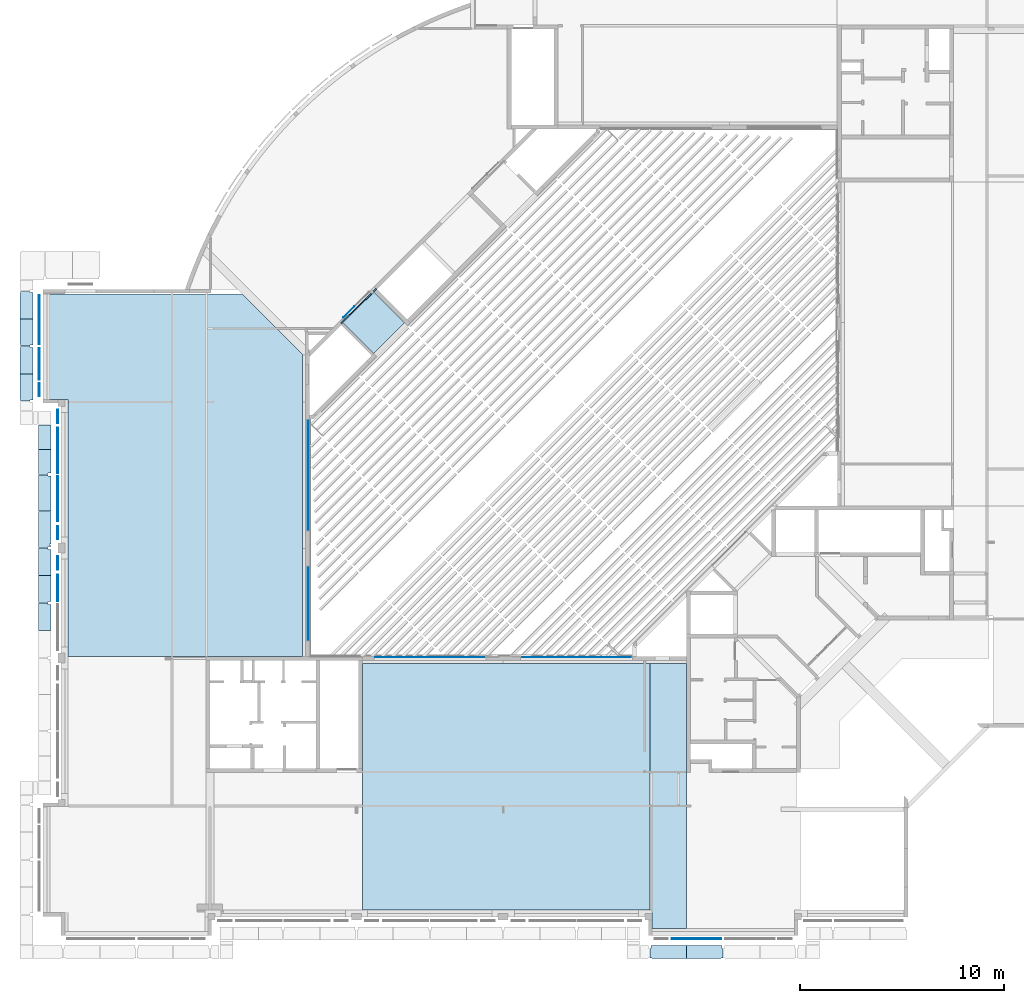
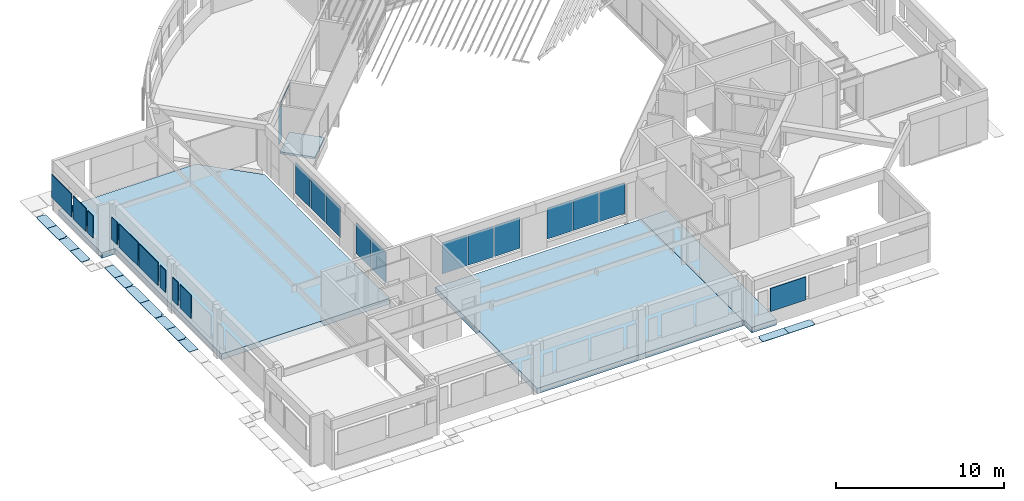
# One storey, part 17 of 37: 23 plates, 17 slabs, 1 element without a shape of its own.
"""IFC4X3_ADD2 building model written with IfcOpenShell, lengths in millimetres."""

from ifc_helpers import new_model, si_unit, direction, frame, frame_2d, origin_with_axes, origin_2d_with_axis, place, context, subcontext, project, spatial, polyline, rectangle, outline, extrude, source, transform, mapped, material, type_object, element, aggregate, save


model = new_model("IFC4X3_ADD2")

# Units and contexts
model_context = context("Model", 3, precision=1e-05, world=origin_with_axes(), true_north=direction((0.0, 1.0)))
body_context = subcontext(model_context, "Body", "Model", "MODEL_VIEW")
ifc_project = project(units=[si_unit("LENGTHUNIT", "METRE", prefix="MILLI"), si_unit("AREAUNIT", "SQUARE_METRE"), si_unit("VOLUMEUNIT", "CUBIC_METRE"), si_unit("PLANEANGLEUNIT", "RADIAN"), si_unit("TIMEUNIT", "SECOND"), si_unit("MASSUNIT", "GRAM")], contexts=[model_context])

# Site, building, storey
site_placement = place(None, origin_with_axes())
site = spatial("IfcSite", under=ifc_project, at=site_placement, Name="Site", CompositionType="ELEMENT")
building_placement = place(site_placement, origin_with_axes())
building = spatial("IfcBuilding", under=site, at=building_placement, Name="IFC Building Story")
storey_placement = place(building_placement, frame((0.0, 0.0, 3600.0), z_axis=(0.0, 0.0, 1.0), x_axis=(1.0, 0.0, 0.0)))
storey = spatial("IfcBuildingStorey", under=building, at=storey_placement, Name="010", Elevation=3600.0)

# Slabs
ifc_material_1 = material(Name="BB_Beton_Bestaand")
slab_type_1 = type_object("IfcSlabType", Name="BB_Beton_Bestaand 400", PredefinedType="FLOOR", material=ifc_material_1)
slab_1_placement = place(storey_placement, frame((-36000.00000000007, 244.9999999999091, -600.0), z_axis=(0.0, 0.0, 1.0), x_axis=(1.0, 0.0, 0.0)))
element("IfcSlab", 1, at=slab_1_placement, inside=storey, type_object=slab_type_1, Name="Floor:BB_XX_Vloer welfsels, 400 mm", ObjectType="Floor:BB_XX_Vloer welfsels, 400 mm", PredefinedType="FLOOR", context=body_context, shape_type="SweptSolid", body=[
    extrude(rectangle(XDim=14100.00000000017, YDim=12110.00000000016, at=origin_2d_with_axis()), frame((7050.00000000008, 6055.000000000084, 0.0), z_axis=(0.0, 0.0, 1.0), x_axis=(1.0, 0.0, 0.0)), (0.0, 0.0, 1.0), 400.0),
])
slab_2_placement = place(storey_placement, frame((-51365.00000000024, 30505.00000000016, -600.0), z_axis=(0.0, 0.0, 1.0), x_axis=(0.0, -1.0, 0.0)))
element("IfcSlab", 2, at=slab_2_placement, inside=storey, type_object=slab_type_1, Name="Floor:BB_XX_Vloer welfsels, 400 mm", ObjectType="Floor:BB_XX_Vloer welfsels, 400 mm", PredefinedType="FLOOR", context=body_context, shape_type="SweptSolid", body=[
    extrude(outline(polyline([(10811.73025142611, -4246.733155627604), (-1813.265682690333, -4246.733155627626), (-1813.265682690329, -5156.733155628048), (-6993.265682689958, -5156.733155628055), (-6993.265682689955, 4280.398933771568), (-4010.397772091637, 7263.266844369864), (10811.73025142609, 7263.266844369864), (10811.73025142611, -4246.733155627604)])), frame((6993.265682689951, 5156.733155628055, 0.0), z_axis=(0.0, 0.0, 1.0), x_axis=(1.0, 0.0, 0.0)), (0.0, 0.0, 1.0), 400.0),
])
slab_3_placement = place(storey_placement, frame((-21900.00000000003, 12355.00000000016, -600.0), z_axis=(0.0, 0.0, 1.0), x_axis=(0.0, -1.0, 0.0)))
element("IfcSlab", 3, at=slab_3_placement, inside=storey, type_object=slab_type_1, Name="Floor:BB_XX_Vloer welfsels, 400 mm", ObjectType="Floor:BB_XX_Vloer welfsels, 400 mm", PredefinedType="FLOOR", context=body_context, shape_type="SweptSolid", body=[
    extrude(outline(polyline([(4636.66666666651, -536.6666666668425), (3736.66666666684, -536.6666666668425), (3736.66666666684, -631.6666666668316), (-8373.33333333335, -631.6666666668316), (-8373.33333333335, 1168.33333333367), (4636.66666666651, 1168.33333333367), (4636.66666666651, -536.6666666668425)])), frame((8373.33333333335, 631.6666666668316, 0.0), z_axis=(0.0, 0.0, 1.0), x_axis=(1.0, 0.0, 0.0)), (0.0, 0.0, 1.0), 400.0),
])

# Plates
ifc_material_2 = material(Name="BB_Glas")
shared_shape_1 = source(origin_with_axes(), body_context, "Body", "SweptSolid", [
    extrude(rectangle(XDim=1602.000000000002, YDim=652.000000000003, at=frame_2d((0.0, 0.0), x_axis=(0.0, 1.0))), frame((0.0, 0.0, -44.0), z_axis=(0.0, 0.0, 1.0), x_axis=(1.0, 0.0, 0.0)), (0.0, 0.0, 1.0), 44.0),
])
for number, where, z_axis, x_axis in (
    (4, (-50987.4999999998, 24486.0, 1765.0), (-1.0, 0.0, 0.0), (0.0, -1.0, 0.0)),
    (5, (-50987.4999999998, 18774.0, 1765.0), (-1.0, 0.0, 0.0), (0.0, -1.0, 0.0)),
):
    element("IfcPlate", number, at=place(storey_placement, frame(where, z_axis=z_axis, x_axis=x_axis)), inside=storey, material=ifc_material_2, Name="BB_07.06_Buitenbeglazing, rechthoekig_GMO:07.06.72#01_Drievoudige beglazing, 44 mm, A/A*/A", ObjectType="BB_07.06_Buitenbeglazing, rechthoekig_GMO:07.06.72#01_Drievoudige beglazing, 44 mm, A/A*/A", PredefinedType="USERDEFINED", context=body_context, shape_type="MappedRepresentation", body=[
        mapped(shared_shape_1, transform((0.0, 0.0, 0.0))),
    ])
shared_shape_2 = source(origin_with_axes(), body_context, "Body", "SweptSolid", [
    extrude(rectangle(XDim=2222.0, YDim=1680.000000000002, at=origin_2d_with_axis()), frame((0.0, 0.0, -44.0), z_axis=(0.0, 0.0, 1.0), x_axis=(1.0, 0.0, 0.0)), (0.0, 0.0, 1.0), 44.0),
])
for number, where, z_axis, x_axis in (
    (6, (-50987.4999999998, 22811.0, 1765.0), (-1.0, 0.0, 0.0), (0.0, -1.0, 0.0)),
    (7, (-50987.4999999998, 20449.0, 1765.0), (-1.0, 0.0, 0.0), (0.0, -1.0, 0.0)),
):
    element("IfcPlate", number, at=place(storey_placement, frame(where, z_axis=z_axis, x_axis=x_axis)), inside=storey, material=ifc_material_2, Name="BB_07.06_Buitenbeglazing, rechthoekig_GMO:07.06.72#01_Drievoudige beglazing, 44 mm, A/A*/A", ObjectType="BB_07.06_Buitenbeglazing, rechthoekig_GMO:07.06.72#01_Drievoudige beglazing, 44 mm, A/A*/A", PredefinedType="USERDEFINED", context=body_context, shape_type="MappedRepresentation", body=[
        mapped(shared_shape_2, transform((0.0, 0.0, 0.0))),
    ])
shared_shape_3 = source(origin_with_axes(), body_context, "Body", "SweptSolid", [
    extrude(rectangle(XDim=2432.0, YDim=1680.000000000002, at=origin_2d_with_axis()), frame((0.0, 0.0, -44.0), z_axis=(0.0, 0.0, 1.0), x_axis=(1.0, 0.0, 0.0)), (0.0, 0.0, 1.0), 44.0),
])
plate_1_placement = place(storey_placement, frame((-19616.0, -1187.50000000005, 1765.0), z_axis=(0.0, -1.0, 0.0), x_axis=(1.0, 0.0, 0.0)))
element("IfcPlate", 8, at=plate_1_placement, inside=storey, material=ifc_material_2, Name="BB_07.06_Buitenbeglazing, rechthoekig_GMO:07.06.72#01_Drievoudige beglazing, 44 mm, A/A*/A", ObjectType="BB_07.06_Buitenbeglazing, rechthoekig_GMO:07.06.72#01_Drievoudige beglazing, 44 mm, A/A*/A", PredefinedType="USERDEFINED", context=body_context, shape_type="MappedRepresentation", body=[
    mapped(shared_shape_3, transform((0.0, 0.0, 0.0))),
])
shared_shape_4 = source(origin_with_axes(), body_context, "Body", "SweptSolid", [
    extrude(rectangle(XDim=1602.000000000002, YDim=652.0000000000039, at=frame_2d((0.0, 0.0), x_axis=(0.0, 1.0))), frame((0.0, 0.0, -44.0), z_axis=(0.0, 0.0, 1.0), x_axis=(1.0, 0.0, 0.0)), (0.0, 0.0, 1.0), 44.0),
])
plate_2_placement = place(storey_placement, frame((-51887.5000000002, 25794.0, 1765.0), z_axis=(-1.0, 0.0, 0.0), x_axis=(0.0, 1.0, 0.0)))
element("IfcPlate", 9, at=plate_2_placement, inside=storey, material=ifc_material_2, Name="BB_07.06_Buitenbeglazing, rechthoekig_GMO:07.06.72#01_Drievoudige beglazing, 44 mm, A/A*/A", ObjectType="BB_07.06_Buitenbeglazing, rechthoekig_GMO:07.06.72#01_Drievoudige beglazing, 44 mm, A/A*/A", PredefinedType="USERDEFINED", context=body_context, shape_type="MappedRepresentation", body=[
    mapped(shared_shape_4, transform((0.0, 0.0, 0.0))),
])
shared_shape_5 = source(origin_with_axes(), body_context, "Body", "SweptSolid", [
    extrude(rectangle(XDim=1680.000000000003, YDim=1532.000000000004, at=frame_2d((0.0, 0.0), x_axis=(0.0, 1.0))), frame((0.0, 0.0, -44.0), z_axis=(0.0, 0.0, 1.0), x_axis=(1.0, 0.0, 0.0)), (0.0, 0.0, 1.0), 44.0),
])
plate_3_placement = place(storey_placement, frame((-51887.5000000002, 27064.0, 1765.0), z_axis=(-1.0, 0.0, 0.0), x_axis=(0.0, 1.0, 0.0)))
element("IfcPlate", 10, at=plate_3_placement, inside=storey, material=ifc_material_2, Name="BB_07.06_Buitenbeglazing, rechthoekig_GMO:07.06.72#01_Drievoudige beglazing, 44 mm, A/A*/A", ObjectType="BB_07.06_Buitenbeglazing, rechthoekig_GMO:07.06.72#01_Drievoudige beglazing, 44 mm, A/A*/A", PredefinedType="USERDEFINED", context=body_context, shape_type="MappedRepresentation", body=[
    mapped(shared_shape_5, transform((0.0, 0.0, 0.0))),
])
shared_shape_6 = source(origin_with_axes(), body_context, "Body", "SweptSolid", [
    extrude(rectangle(XDim=2400.0, YDim=1680.000000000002, at=origin_2d_with_axis()), frame((0.0, 0.0, -44.0), z_axis=(0.0, 0.0, 1.0), x_axis=(1.0, 0.0, 0.0)), (0.0, 0.0, 1.0), 44.0),
])
plate_4_placement = place(storey_placement, frame((-51887.5000000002, 29230.0, 1765.0), z_axis=(-1.0, 0.0, 0.0), x_axis=(0.0, 1.0, 0.0)))
element("IfcPlate", 11, at=plate_4_placement, inside=storey, material=ifc_material_2, Name="BB_07.06_Buitenbeglazing, rechthoekig_GMO:07.06.72#01_Drievoudige beglazing, 44 mm, A/A*/A", ObjectType="BB_07.06_Buitenbeglazing, rechthoekig_GMO:07.06.72#01_Drievoudige beglazing, 44 mm, A/A*/A", PredefinedType="USERDEFINED", context=body_context, shape_type="MappedRepresentation", body=[
    mapped(shared_shape_6, transform((0.0, 0.0, 0.0))),
])
shared_shape_7 = source(origin_with_axes(), body_context, "Body", "SweptSolid", [
    extrude(rectangle(XDim=1680.000000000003, YDim=1322.000000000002, at=frame_2d((0.0, 0.0), x_axis=(0.0, 1.0))), frame((0.0, 0.0, -44.0), z_axis=(0.0, 0.0, 1.0), x_axis=(1.0, 0.0, 0.0)), (0.0, 0.0, 1.0), 44.0),
])
plate_5_placement = place(storey_placement, frame((-50987.4999999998, 16061.0, 1765.0), z_axis=(-1.0, 0.0, 0.0), x_axis=(0.0, 1.0, 0.0)))
element("IfcPlate", 12, at=plate_5_placement, inside=storey, material=ifc_material_2, Name="BB_07.06_Buitenbeglazing, rechthoekig_GMO:07.06.72#01_Drievoudige beglazing, 44 mm, A/A*/A", ObjectType="BB_07.06_Buitenbeglazing, rechthoekig_GMO:07.06.72#01_Drievoudige beglazing, 44 mm, A/A*/A", PredefinedType="USERDEFINED", context=body_context, shape_type="MappedRepresentation", body=[
    mapped(shared_shape_7, transform((0.0, 0.0, 0.0))),
])
shared_shape_8 = source(origin_with_axes(), body_context, "Body", "SweptSolid", [
    extrude(rectangle(XDim=1680.000000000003, YDim=652.000000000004, at=frame_2d((0.0, 0.0), x_axis=(0.0, 1.0))), frame((0.0, 0.0, -44.0), z_axis=(0.0, 0.0, 1.0), x_axis=(1.0, 0.0, 0.0)), (0.0, 0.0, 1.0), 44.0),
])
plate_6_placement = place(storey_placement, frame((-50987.4999999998, 17286.0, 1765.0), z_axis=(-1.0, 0.0, 0.0), x_axis=(0.0, 1.0, 0.0)))
element("IfcPlate", 13, at=plate_6_placement, inside=storey, material=ifc_material_2, Name="BB_07.06_Buitenbeglazing, rechthoekig_GMO:07.06.72#01_Drievoudige beglazing, 44 mm, A/A*/A", ObjectType="BB_07.06_Buitenbeglazing, rechthoekig_GMO:07.06.72#01_Drievoudige beglazing, 44 mm, A/A*/A", PredefinedType="USERDEFINED", context=body_context, shape_type="MappedRepresentation", body=[
    mapped(shared_shape_8, transform((0.0, 0.0, 0.0))),
])
shared_shape_9 = source(origin_with_axes(), body_context, "Body", "SweptSolid", [
    extrude(rectangle(XDim=2256.0, YDim=1736.000000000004, at=frame_2d((0.0, 0.0), x_axis=(0.0, 1.0))), frame((0.0, 0.0, -17.0), z_axis=(0.0, 0.0, 1.0), x_axis=(1.0, 0.0, 0.0)), (0.0, 0.0, 1.0), 17.0),
])
for number, where, z_axis, x_axis in (
    (14, (-25500.0, 12671.504065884, 1475.0), (0.0, 1.0, 0.0), (-1.0, 0.0, 0.0)),
    (15, (-23700.0, 12671.504065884, 1475.0), (0.0, 1.0, 0.0), (-1.0, 0.0, 0.0)),
    (16, (-32700.0, 12671.504065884, 1475.0), (0.0, 1.0, 0.0), (-1.0, 0.0, 0.0)),
    (17, (-30900.0, 12671.504065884, 1475.0), (0.0, 1.0, 0.0), (-1.0, 0.0, 0.0)),
    (18, (-34500.0, 12671.504065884, 1475.0), (0.0, 1.0, 0.0), (-1.0, 0.0, 0.0)),
    (19, (-27300.0, 12671.504065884, 1475.0), (0.0, 1.0, 0.0), (-1.0, 0.0, 0.0)),
    (20, (-38678.4375000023, 14400.0, 1462.0), (1.0, 0.0, 0.0), (0.0, 1.0, 0.0)),
    (21, (-38676.9500000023, 21600.0, 1462.0), (1.0, 0.0, 0.0), (0.0, 1.0, 0.0)),
    (22, (-38676.9500000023, 19800.0, 1462.0), (1.0, 0.0, 0.0), (0.0, 1.0, 0.0)),
    (23, (-38676.9500000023, 23400.0, 1462.0), (1.0, 0.0, 0.0), (0.0, 1.0, 0.0)),
):
    element("IfcPlate", number, at=place(storey_placement, frame(where, z_axis=z_axis, x_axis=x_axis)), inside=storey, material=ifc_material_2, Name="BB_10.10_Binnenbeglazing, rechthoekig_GMO:10.10.41#02_Enkelvoudige beglazing, 2B2, EI30, 40dB", ObjectType="BB_10.10_Binnenbeglazing, rechthoekig_GMO:10.10.41#02_Enkelvoudige beglazing, 2B2, EI30, 40dB", PredefinedType="USERDEFINED", context=body_context, shape_type="MappedRepresentation", body=[
        mapped(shared_shape_9, transform((0.0, 0.0, 0.0))),
    ])
shared_shape_10 = source(origin_with_axes(), body_context, "Body", "SweptSolid", [
    extrude(rectangle(XDim=2554.0, YDim=754.000000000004, at=frame_2d((0.0, 0.0), x_axis=(0.0, 1.0))), frame((0.0, 0.0, -17.0), z_axis=(0.0, 0.0, 1.0), x_axis=(1.0, 0.0, 0.0)), (0.0, 0.0, 1.0), 17.0),
])
plate_7_placement = place(storey_placement, frame((-36682.0381643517, 29618.0414202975, 1335.0), z_axis=(-0.7071067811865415, 0.7071067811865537, 0.0), x_axis=(0.7071067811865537, 0.7071067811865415, 0.0)))
element("IfcPlate", 24, at=plate_7_placement, inside=storey, material=ifc_material_2, Name="BB_10.10_Binnenbeglazing, rechthoekig_GMO:10.10.41#01_Enkelvoudige beglazing, 2B2, EI30", ObjectType="BB_10.10_Binnenbeglazing, rechthoekig_GMO:10.10.41#01_Enkelvoudige beglazing, 2B2, EI30", PredefinedType="USERDEFINED", context=body_context, shape_type="MappedRepresentation", body=[
    mapped(shared_shape_10, transform((0.0, 0.0, 0.0))),
])
shared_shape_11 = source(origin_with_axes(), body_context, "Body", "SweptSolid", [
    extrude(rectangle(XDim=1736.000000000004, YDim=17.0000000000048, at=frame_2d((0.0, 0.0), x_axis=(0.0, 1.0))), frame((8.50000000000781, 867.9999999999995, 0.0), z_axis=(0.0, 0.0, 1.0), x_axis=(1.0, 0.0, 0.0)), (0.0, 0.0, 1.0), 2256.00000000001),
])
plate_8_placement = place(storey_placement, frame((-38695.4375000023, 15332.0, 334.0), z_axis=(0.0, 0.0, 1.0), x_axis=(1.0, 0.0, 0.0)))
element("IfcPlate", 25, at=plate_8_placement, inside=storey, material=ifc_material_2, Name="BB_10.10_Binnenbeglazing, rechthoekig_GMO:10.10.41#02_Enkelvoudige beglazing, 2B2, EI30, 40dB", ObjectType="BB_10.10_Binnenbeglazing, rechthoekig_GMO:10.10.41#02_Enkelvoudige beglazing, 2B2, EI30, 40dB", PredefinedType="USERDEFINED", context=body_context, shape_type="MappedRepresentation", body=[
    mapped(shared_shape_11, transform((0.0, 0.0, 0.0))),
])

# Slab
slab_type_2 = type_object("IfcSlabType", Name="BB_Beton_Bestaand 150", PredefinedType="FLOOR", material=ifc_material_1)
slab_4_placement = place(storey_placement, frame((-36975.84103193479, 29105.74255732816, -350.0), z_axis=(0.0, 0.0, 1.0), x_axis=(0.7071067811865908, -0.7071067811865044, 0.0)))
element("IfcSlab", 26, at=slab_4_placement, inside=storey, type_object=slab_type_2, Name="Floor:BB_XX_Vloer uit beton, 150 mm", ObjectType="Floor:BB_XX_Vloer uit beton, 150 mm", PredefinedType="FLOOR", context=body_context, shape_type="SweptSolid", body=[
    extrude(rectangle(XDim=2158.526617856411, YDim=2130.000000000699, at=frame_2d((0.0, 0.0), x_axis=(-1.0, 0.0))), frame((1079.263308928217, 1065.000000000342, 0.0), z_axis=(0.0, 0.0, 1.0), x_axis=(1.0, 0.0, 0.0)), (0.0, 0.0, 1.0), 150.0),
])

# Assembly, plate
assembly_placement = place(storey_placement, frame((0.0, 0.0, -3600.0), z_axis=(0.0, 0.0, 1.0), x_axis=(1.0, 0.0, 0.0)))
assembly = element("IfcElementAssembly", 27, at=assembly_placement, inside=storey, Name="Structural Connections Assembly:IPE360 + plaat", ObjectType="Structural Connections Assembly:IPE360 + plaat", AssemblyPlace="NOTDEFINED", PredefinedType="USERDEFINED")
ifc_material_3 = material(Name="BB_Schrijnwerk_Aluminium")
shared_shape_12 = source(origin_with_axes(), body_context, "Body", "SweptSolid", [
    extrude(rectangle(XDim=2419.99999999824, YDim=65.00000000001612, at=frame_2d((0.0, 0.0), x_axis=(0.7071067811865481, 0.7071067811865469))), frame((878.580175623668, 878.5801756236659, 0.0), z_axis=(0.0, 0.0, 1.0), x_axis=(1.0, 0.0, 0.0)), (0.0, 0.0, 1.0), 9.99999999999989),
])
plate_9_placement = place(assembly_placement, frame((-37071.3004473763, 29027.9608113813, 6839.50000000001), z_axis=(0.0, 0.0, 1.0), x_axis=(1.0, 0.0, 0.0)))
plate_9 = element("IfcPlate", 28, at=plate_9_placement, material=ifc_material_3, Name="plate4:plate", ObjectType="plate4:plate", PredefinedType="USERDEFINED", context=body_context, shape_type="MappedRepresentation", body=[
    mapped(shared_shape_12, transform((0.0, 0.0, 0.0))),
])
aggregate(assembly, [plate_9])

# Slabs
ifc_material_4 = material(Name="Steel, Galvanized - looprooster")
slab_type_3 = type_object("IfcSlabType", Name="Steel, Galvanized - looprooster 30", PredefinedType="FLOOR", material=ifc_material_4)
slab_5_placement = place(storey_placement, frame((-52819.998957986, 29279.99796376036, -350.0), z_axis=(0.0, 0.0, 1.0), x_axis=(0.0, -1.0, 0.0)))
element("IfcSlab", 29, at=slab_5_placement, inside=storey, type_object=slab_type_3, Name="Floor:GVH - Looprooster 30 mm", ObjectType="Floor:GVH - Looprooster 30 mm", PredefinedType="FLOOR", context=body_context, shape_type="SweptSolid", body=[
    extrude(outline(polyline([(368.499500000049, -267.5011650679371), (281.4994999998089, -267.5011650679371), (281.4994999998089, -282.4999850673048), (-966.4984999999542, -282.4999850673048), (-966.4984999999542, 347.5005750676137), (316.4995000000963, 347.5005750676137), (316.4995000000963, 202.5005750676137), (368.499500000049, 202.5005750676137), (368.499500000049, -267.5011650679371)])), frame((966.4984999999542, 282.4999850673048, 0.0), z_axis=(0.0, 0.0, 1.0), x_axis=(1.0, 0.0, 0.0)), (0.0, 0.0, 1.0), 30.0),
])
slab_6_placement = place(storey_placement, frame((-51919.99839785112, 22852.4979637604, -350.0), z_axis=(0.0, 0.0, 1.0), x_axis=(0.0, -1.0, 0.0)))
element("IfcSlab", 30, at=slab_6_placement, inside=storey, type_object=slab_type_3, Name="Floor:GVH - Looprooster 30 mm", ObjectType="Floor:GVH - Looprooster 30 mm", PredefinedType="FLOOR", context=body_context, shape_type="SweptSolid", body=[
    extrude(outline(polyline([(336.6244499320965, -267.5017166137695), (249.6246502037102, -267.5017166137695), (249.6246502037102, -282.4994277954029), (-870.8735500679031, -282.4994277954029), (-870.8735500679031, 347.5005722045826), (284.6244499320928, 347.5005722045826), (284.6244499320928, 202.5005722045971), (336.6244499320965, 202.5005722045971), (336.6244499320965, -267.5017166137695)])), frame((870.8735500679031, 282.4994277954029, 0.0), z_axis=(0.0, 0.0, 1.0), x_axis=(1.0, 0.0, 0.0)), (0.0, 0.0, 1.0), 30.0),
])
slab_7_placement = place(storey_placement, frame((-51919.99839785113, 19829.49796376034, -350.0), z_axis=(0.0, 0.0, 1.0), x_axis=(0.0, -1.0, 0.0)))
element("IfcSlab", 31, at=slab_7_placement, inside=storey, type_object=slab_type_3, Name="Floor:GVH - Looprooster 30 mm", ObjectType="Floor:GVH - Looprooster 30 mm", PredefinedType="FLOOR", context=body_context, shape_type="SweptSolid", body=[
    extrude(outline(polyline([(368.9162999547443, -368.3342997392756), (281.9165002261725, -368.3342997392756), (281.9165002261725, -383.3320109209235), (-1415.581700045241, -383.3320109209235), (-1415.581700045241, 246.667989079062), (183.9162999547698, 246.667989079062), (183.9162999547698, 156.6647847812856), (263.9162999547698, 156.6647847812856), (263.9162999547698, 246.667989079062), (316.9162999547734, 246.667989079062), (316.9162999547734, 101.6655477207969), (368.9162999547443, 101.6655477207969), (368.9162999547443, -368.3342997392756)])), frame((1415.581700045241, 383.3320109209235, 0.0), z_axis=(0.0, 0.0, 1.0), x_axis=(1.0, 0.0, 0.0)), (0.0, 0.0, 1.0), 30.0),
])
slab_8_placement = place(storey_placement, frame((-51919.99839785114, 16679.99796376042, -350.0), z_axis=(0.0, 0.0, 1.0), x_axis=(0.0, -1.0, 0.0)))
element("IfcSlab", 32, at=slab_8_placement, inside=storey, type_object=slab_type_3, Name="Floor:GVH - Looprooster 30 mm", ObjectType="Floor:GVH - Looprooster 30 mm", PredefinedType="FLOOR", context=body_context, shape_type="SweptSolid", body=[
    extrude(outline(polyline([(368.499500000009, -267.5006947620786), (281.4995000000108, -267.5006947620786), (281.4995000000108, -282.4989546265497), (-966.4985000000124, -282.4989546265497), (-966.4985000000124, 347.5010453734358), (316.4995000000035, 347.5010453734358), (316.4995000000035, 202.498604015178), (368.499500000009, 202.498604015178), (368.499500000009, -267.5006947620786)])), frame((966.4985000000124, 282.4989546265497, 0.0), z_axis=(0.0, 0.0, 1.0), x_axis=(1.0, 0.0, 0.0)), (0.0, 0.0, 1.0), 30.0),
])
slab_9_placement = place(storey_placement, frame((-52819.9983978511, 30614.9999637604, -350.0), z_axis=(0.0, 0.0, 1.0), x_axis=(0.0, -1.0, 0.0)))
element("IfcSlab", 33, at=slab_9_placement, inside=storey, type_object=slab_type_3, Name="Floor:GVH - Looprooster 30 mm", ObjectType="Floor:GVH - Looprooster 30 mm", PredefinedType="FLOOR", context=body_context, shape_type="SweptSolid", body=[
    extrude(outline(polyline([(-316.3744513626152, 347.5005722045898), (966.1235505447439, 347.5005722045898), (966.1235505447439, -282.4994277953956), (-281.3746478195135, -282.4994277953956), (-281.3746478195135, -267.501716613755), (-368.3744513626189, -267.501716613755), (-368.3744513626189, 202.5005722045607), (-316.3744513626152, 202.5005722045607), (-316.3744513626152, 347.5005722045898)])), frame((368.3744513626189, 282.4994277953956, 0.0), z_axis=(0.0, 0.0, 1.0), x_axis=(1.0, 0.0, 0.0)), (0.0, 0.0, 1.0), 30.0),
])
slab_10_placement = place(storey_placement, frame((-52819.99895798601, 27914.99996376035, -350.0), z_axis=(0.0, 0.0, 1.0), x_axis=(0.0, -1.0, 0.0)))
element("IfcSlab", 34, at=slab_10_placement, inside=storey, type_object=slab_type_3, Name="Floor:GVH - Looprooster 30 mm", ObjectType="Floor:GVH - Looprooster 30 mm", PredefinedType="FLOOR", context=body_context, shape_type="SweptSolid", body=[
    extrude(outline(polyline([(-316.4995000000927, 347.5005750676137), (966.498499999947, 347.5005750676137), (966.498499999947, -282.4999850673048), (-281.4994999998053, -282.4999850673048), (-281.4994999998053, -267.5011650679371), (-368.4995000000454, -267.5011650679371), (-368.4995000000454, 202.5005750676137), (-316.4995000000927, 202.5005750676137), (-316.4995000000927, 347.5005750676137)])), frame((368.4995000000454, 282.4999850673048, 0.0), z_axis=(0.0, 0.0, 1.0), x_axis=(1.0, 0.0, 0.0)), (0.0, 0.0, 1.0), 30.0),
])
slab_11_placement = place(storey_placement, frame((-52819.99839785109, 26579.4979637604, -350.0), z_axis=(0.0, 0.0, 1.0), x_axis=(0.0, -1.0, 0.0)))
element("IfcSlab", 35, at=slab_11_placement, inside=storey, type_object=slab_type_3, Name="Floor:GVH - Looprooster 30 mm", ObjectType="Floor:GVH - Looprooster 30 mm", PredefinedType="FLOOR", context=body_context, shape_type="SweptSolid", body=[
    extrude(outline(polyline([(368.3744499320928, -267.5011650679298), (281.3746502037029, -267.5011650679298), (281.3746502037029, -282.4999850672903), (-966.1235500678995, -282.4999850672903), (-966.1235500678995, 347.5005750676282), (316.3744499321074, 347.5005750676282), (316.3744499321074, 202.500575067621), (368.3744499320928, 202.500575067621), (368.3744499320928, -267.5011650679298)])), frame((966.1235500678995, 282.4999850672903, 0.0), z_axis=(0.0, 0.0, 1.0), x_axis=(1.0, 0.0, 0.0)), (0.0, 0.0, 1.0), 30.0),
])
slab_12_placement = place(storey_placement, frame((-51919.9983978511, 21614.99996376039, -350.0), z_axis=(0.0, 0.0, 1.0), x_axis=(0.0, -1.0, 0.0)))
element("IfcSlab", 36, at=slab_12_placement, inside=storey, type_object=slab_type_3, Name="Floor:GVH - Looprooster 30 mm", ObjectType="Floor:GVH - Looprooster 30 mm", PredefinedType="FLOOR", context=body_context, shape_type="SweptSolid", body=[
    extrude(outline(polyline([(-428.8744508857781, 347.5005722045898), (1303.623549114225, 347.5005722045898), (1303.623549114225, -282.4994277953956), (-393.8746473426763, -282.4994277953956), (-393.8746473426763, -267.501716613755), (-480.8744508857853, -267.501716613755), (-480.8744508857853, 202.5005722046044), (-428.8744508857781, 202.5005722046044), (-428.8744508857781, 347.5005722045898)])), frame((480.8744508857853, 282.4994277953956, 0.0), z_axis=(0.0, 0.0, 1.0), x_axis=(1.0, 0.0, 0.0)), (0.0, 0.0, 1.0), 30.0),
])
slab_13_placement = place(storey_placement, frame((-51919.99839785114, 18014.99596376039, -350.0), z_axis=(0.0, 0.0, 1.0), x_axis=(0.0, -1.0, 0.0)))
element("IfcSlab", 37, at=slab_13_placement, inside=storey, type_object=slab_type_3, Name="Floor:GVH - Looprooster 30 mm", ObjectType="Floor:GVH - Looprooster 30 mm", PredefinedType="FLOOR", context=body_context, shape_type="SweptSolid", body=[
    extrude(outline(polyline([(-316.4984508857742, 347.5010453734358), (966.4995491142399, 347.5010453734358), (966.4995491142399, -282.4989546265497), (-281.5026473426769, -282.4989546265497), (-281.5026473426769, -267.5006947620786), (-368.4984508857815, -267.5006947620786), (-368.4984508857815, 202.498604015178), (-316.4984508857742, 202.498604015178), (-316.4984508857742, 347.5010453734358)])), frame((368.4984508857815, 282.4989546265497, 0.0), z_axis=(0.0, 0.0, 1.0), x_axis=(1.0, 0.0, 0.0)), (0.0, 0.0, 1.0), 30.0),
])
slab_14_placement = place(storey_placement, frame((-51919.99797688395, 15314.99596376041, -350.0), z_axis=(0.0, 0.0, 1.0), x_axis=(0.0, -1.0, 0.0)))
element("IfcSlab", 38, at=slab_14_placement, inside=storey, type_object=slab_type_3, Name="Floor:GVH - Looprooster 30 mm", ObjectType="Floor:GVH - Looprooster 30 mm", PredefinedType="FLOOR", context=body_context, shape_type="SweptSolid", body=[
    extrude(outline(polyline([(-316.4974999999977, 347.5010453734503), (966.4964999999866, 347.5010453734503), (966.4964999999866, -282.4989546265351), (-281.5014999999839, -282.4989546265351), (-281.5014999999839, -267.5006947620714), (-368.4975000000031, -267.5006947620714), (-368.4975000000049, 202.4986040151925), (-316.4974999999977, 202.4986040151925), (-316.4974999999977, 347.5010453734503)])), frame((368.4975000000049, 282.4989546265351, 0.0), z_axis=(0.0, 0.0, 1.0), x_axis=(1.0, 0.0, 0.0)), (0.0, 0.0, 1.0), 30.0),
])
slab_15_placement = place(storey_placement, frame((-51919.9983978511, 24061.50125884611, -350.0), z_axis=(0.0, 0.0, 1.0), x_axis=(0.0, -1.0, 0.0)))
element("IfcSlab", 39, at=slab_15_placement, inside=storey, type_object=slab_type_3, Name="Floor:GVH - Looprooster 30 mm", ObjectType="Floor:GVH - Looprooster 30 mm", PredefinedType="FLOOR", context=body_context, shape_type="SweptSolid", body=[
    extrude(rectangle(XDim=1207.998000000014, YDim=629.9999999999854, at=frame_2d((0.0, 0.0), x_axis=(-1.0, 0.0))), frame((603.9990000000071, 314.9999999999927, 0.0), z_axis=(0.0, 0.0, 1.0), x_axis=(1.0, 0.0, 0.0)), (0.0, 0.0, 1.0), 30.0),
])
slab_16_placement = place(storey_placement, frame((-21885.50000000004, -2119.998390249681, -350.0), z_axis=(0.0, 0.0, 1.0), x_axis=(1.0, 0.0, 0.0)))
element("IfcSlab", 40, at=slab_16_placement, inside=storey, type_object=slab_type_3, Name="Floor:GVH - Looprooster 30 mm", ObjectType="Floor:GVH - Looprooster 30 mm", PredefinedType="FLOOR", context=body_context, shape_type="SweptSolid", body=[
    extrude(outline(polyline([(-393.9994637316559, -282.499218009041), (-393.9994637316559, -267.499561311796), (-480.9995000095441, -267.499561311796), (-480.9995000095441, 202.498340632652), (-428.9995362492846, 202.498340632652), (-428.9995362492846, 347.500438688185), (1303.998499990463, 347.500438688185), (1303.998499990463, -282.499218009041), (-393.9994637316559, -282.499218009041)])), frame((480.9995000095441, 282.499218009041, 0.0), z_axis=(0.0, 0.0, 1.0), x_axis=(1.0, 0.0, 0.0)), (0.0, 0.0, 1.0), 30.0),
])
slab_17_placement = place(storey_placement, frame((-20099.99796376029, -2119.998390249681, -350.0), z_axis=(0.0, 0.0, 1.0), x_axis=(1.0, 0.0, 0.0)))
element("IfcSlab", 41, at=slab_17_placement, inside=storey, type_object=slab_type_3, Name="Floor:GVH - Looprooster 30 mm", ObjectType="Floor:GVH - Looprooster 30 mm", PredefinedType="FLOOR", context=body_context, shape_type="SweptSolid", body=[
    extrude(outline(polyline([(393.9995000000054, -267.499561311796), (393.9995000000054, -282.499218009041), (-1303.998499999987, -282.499218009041), (-1303.998499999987, 347.500438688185), (428.9994999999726, 347.500438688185), (428.9994999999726, 202.498340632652), (480.9995000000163, 202.498340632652), (480.9995000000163, -267.499561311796), (393.9995000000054, -267.499561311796)])), frame((1303.998499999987, 282.499218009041, 0.0), z_axis=(0.0, 0.0, 1.0), x_axis=(1.0, 0.0, 0.0)), (0.0, 0.0, 1.0), 30.0),
])

save(model, "model.ifc")
